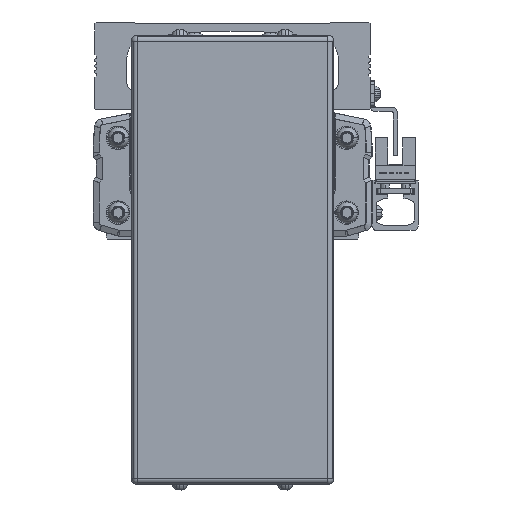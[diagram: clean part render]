
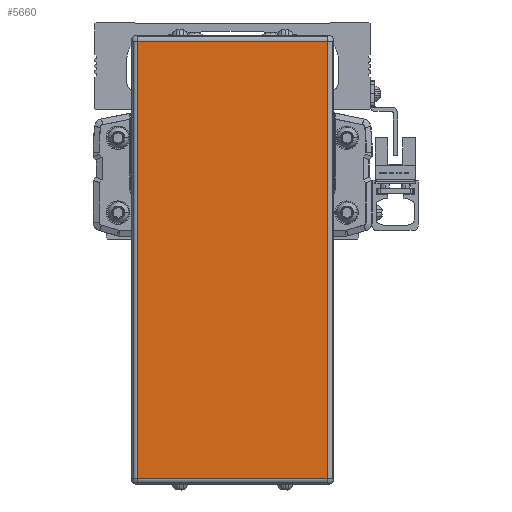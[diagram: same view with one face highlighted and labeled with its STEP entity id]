
A CAD part, front view. The second image highlights one B-rep face of the part: STEP entity #5660.
In plain terms, the highlighted planar face has unit normal (0, -1, 0).
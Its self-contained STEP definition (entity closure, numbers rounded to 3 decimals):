
#5660=ADVANCED_FACE('',(#12417),#12418,.T.);
#12417=FACE_OUTER_BOUND('',#21200,.T.);
#12418=PLANE('',#21201);
#21200=EDGE_LOOP('',(#38289,#38290,#38291,#38292));
#21201=AXIS2_PLACEMENT_3D('',#38293,#38294,#38295);
#38289=ORIENTED_EDGE('',*,*,#54809,.F.);
#38290=ORIENTED_EDGE('',*,*,#55733,.F.);
#38291=ORIENTED_EDGE('',*,*,#55687,.F.);
#38292=ORIENTED_EDGE('',*,*,#54829,.F.);
#38293=CARTESIAN_POINT('',(0.,-139.778,-50.1));
#38294=DIRECTION('',(0.0,-1.0,0.));
#38295=DIRECTION('',(1.0,0.0,0.0));
#54809=EDGE_CURVE('',#67442,#61306,#67444,.T.);
#54829=EDGE_CURVE('',#61306,#60666,#67468,.T.);
#55687=EDGE_CURVE('',#60666,#60698,#68617,.T.);
#55733=EDGE_CURVE('',#60698,#67442,#68675,.T.);
#60666=VERTEX_POINT('',#75202);
#60698=VERTEX_POINT('',#75241);
#61306=VERTEX_POINT('',#76230);
#67442=VERTEX_POINT('',#85060);
#67444=LINE('',#85062,#85063);
#67468=LINE('',#85096,#85097);
#68617=LINE('',#86890,#86891);
#68675=LINE('',#86971,#86972);
#75202=CARTESIAN_POINT('',(-32.5,-139.778,-124.7));
#75241=CARTESIAN_POINT('',(-32.5,-139.778,24.5));
#76230=CARTESIAN_POINT('',(32.5,-139.778,-124.7));
#85060=CARTESIAN_POINT('',(32.5,-139.778,24.5));
#85062=CARTESIAN_POINT('',(32.5,-139.778,-50.1));
#85063=VECTOR('',#98687,10.0);
#85096=CARTESIAN_POINT('',(0.,-139.778,-124.7));
#85097=VECTOR('',#98709,10.0);
#86890=CARTESIAN_POINT('',(-32.5,-139.778,-50.1));
#86891=VECTOR('',#99640,10.0);
#86971=CARTESIAN_POINT('',(0.,-139.778,24.5));
#86972=VECTOR('',#99684,10.0);
#98687=DIRECTION('',(0.0,0.,-1.0));
#98709=DIRECTION('',(-1.0,0.0,0.0));
#99640=DIRECTION('',(0.0,0.,1.0));
#99684=DIRECTION('',(1.0,0.0,0.0));
